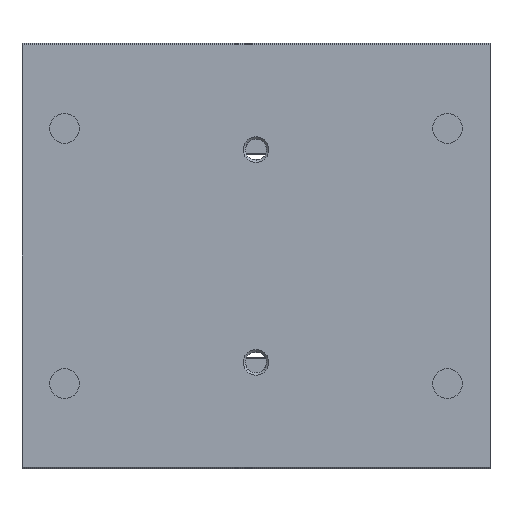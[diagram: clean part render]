
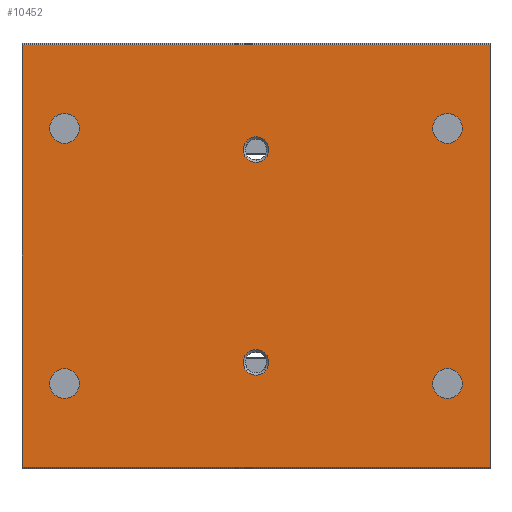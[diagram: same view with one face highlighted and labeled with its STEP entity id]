
A CAD part, front view. The second image highlights one B-rep face of the part: STEP entity #10452.
In plain terms, the highlighted planar face has unit normal (0, -1, 0).
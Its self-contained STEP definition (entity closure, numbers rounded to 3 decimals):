
#342=CIRCLE('',#11066,3.);
#343=CIRCLE('',#11067,3.);
#344=CIRCLE('',#11068,3.5);
#345=CIRCLE('',#11069,3.5);
#346=CIRCLE('',#11070,3.5);
#347=CIRCLE('',#11071,3.5);
#1052=ORIENTED_EDGE('',*,*,#4273,.F.);
#1053=ORIENTED_EDGE('',*,*,#4274,.F.);
#1054=ORIENTED_EDGE('',*,*,#4275,.T.);
#1055=ORIENTED_EDGE('',*,*,#4276,.F.);
#1056=ORIENTED_EDGE('',*,*,#4277,.F.);
#1057=ORIENTED_EDGE('',*,*,#4278,.F.);
#1058=ORIENTED_EDGE('',*,*,#4227,.T.);
#1059=ORIENTED_EDGE('',*,*,#4279,.F.);
#1060=ORIENTED_EDGE('',*,*,#4280,.F.);
#1061=ORIENTED_EDGE('',*,*,#4271,.T.);
#4227=EDGE_CURVE('',#5844,#5843,#6919,.T.);
#4271=EDGE_CURVE('',#5878,#5844,#6963,.T.);
#4273=EDGE_CURVE('',#5879,#5879,#342,.T.);
#4274=EDGE_CURVE('',#5880,#5880,#343,.T.);
#4275=EDGE_CURVE('',#5881,#5881,#344,.T.);
#4276=EDGE_CURVE('',#5882,#5882,#345,.T.);
#4277=EDGE_CURVE('',#5883,#5883,#346,.T.);
#4278=EDGE_CURVE('',#5884,#5884,#347,.T.);
#4279=EDGE_CURVE('',#5885,#5843,#6965,.T.);
#4280=EDGE_CURVE('',#5878,#5885,#6966,.T.);
#5843=VERTEX_POINT('',#15750);
#5844=VERTEX_POINT('',#15752);
#5878=VERTEX_POINT('',#15837);
#5879=VERTEX_POINT('',#15841);
#5880=VERTEX_POINT('',#15843);
#5881=VERTEX_POINT('',#15845);
#5882=VERTEX_POINT('',#15847);
#5883=VERTEX_POINT('',#15849);
#5884=VERTEX_POINT('',#15851);
#5885=VERTEX_POINT('',#15853);
#6919=LINE('',#15751,#7911);
#6963=LINE('',#15836,#7955);
#6965=LINE('',#15852,#7957);
#6966=LINE('',#15854,#7958);
#7911=VECTOR('',#12306,1000.);
#7955=VECTOR('',#12364,1000.);
#7957=VECTOR('',#12380,1000.);
#7958=VECTOR('',#12381,1000.);
#8885=EDGE_LOOP('',(#1052));
#8886=EDGE_LOOP('',(#1053));
#8887=EDGE_LOOP('',(#1054));
#8888=EDGE_LOOP('',(#1055));
#8889=EDGE_LOOP('',(#1056));
#8890=EDGE_LOOP('',(#1057));
#8891=EDGE_LOOP('',(#1058,#1059,#1060,#1061));
#9531=FACE_BOUND('',#8885,.T.);
#9532=FACE_BOUND('',#8886,.T.);
#9533=FACE_BOUND('',#8887,.T.);
#9534=FACE_BOUND('',#8888,.T.);
#9535=FACE_BOUND('',#8889,.T.);
#9536=FACE_BOUND('',#8890,.T.);
#9537=FACE_BOUND('',#8891,.T.);
#10177=PLANE('',#11065);
#10452=ADVANCED_FACE('',(#9531,#9532,#9533,#9534,#9535,#9536,#9537),#10177,
 .F.);
#11065=AXIS2_PLACEMENT_3D('',#15839,#12366,#12367);
#11066=AXIS2_PLACEMENT_3D('',#15840,#12368,#12369);
#11067=AXIS2_PLACEMENT_3D('',#15842,#12370,#12371);
#11068=AXIS2_PLACEMENT_3D('',#15844,#12372,#12373);
#11069=AXIS2_PLACEMENT_3D('',#15846,#12374,#12375);
#11070=AXIS2_PLACEMENT_3D('',#15848,#12376,#12377);
#11071=AXIS2_PLACEMENT_3D('',#15850,#12378,#12379);
#12306=DIRECTION('',(0.,0.,-1.));
#12364=DIRECTION('',(-1.,0.,0.));
#12366=DIRECTION('',(0.,1.,0.));
#12367=DIRECTION('',(0.,0.,1.));
#12368=DIRECTION('',(0.,-1.,0.));
#12369=DIRECTION('',(0.,0.,-1.));
#12370=DIRECTION('',(0.,-1.,0.));
#12371=DIRECTION('',(0.,0.,-1.));
#12372=DIRECTION('',(0.,1.,0.));
#12373=DIRECTION('',(0.,0.,1.));
#12374=DIRECTION('',(0.,-1.,0.));
#12375=DIRECTION('',(0.,0.,-1.));
#12376=DIRECTION('',(0.,-1.,0.));
#12377=DIRECTION('',(0.,0.,-1.));
#12378=DIRECTION('',(0.,-1.,0.));
#12379=DIRECTION('',(0.,0.,-1.));
#12380=DIRECTION('',(-1.,0.,0.));
#12381=DIRECTION('',(0.,0.,-1.));
#15750=CARTESIAN_POINT('',(0.,0.,-49.7));
#15751=CARTESIAN_POINT('',(0.,0.,49.7));
#15752=CARTESIAN_POINT('',(0.,0.,49.7));
#15836=CARTESIAN_POINT('',(110.,0.,49.7));
#15837=CARTESIAN_POINT('',(110.,0.,49.7));
#15839=CARTESIAN_POINT('',(110.,0.,49.7));
#15840=CARTESIAN_POINT('',(55.,0.,-25.));
#15841=CARTESIAN_POINT('',(55.,0.,-28.));
#15842=CARTESIAN_POINT('',(55.,0.,25.));
#15843=CARTESIAN_POINT('',(55.,0.,22.));
#15844=CARTESIAN_POINT('',(100.,0.,30.));
#15845=CARTESIAN_POINT('',(100.,0.,33.5));
#15846=CARTESIAN_POINT('',(100.,0.,-30.));
#15847=CARTESIAN_POINT('',(100.,0.,-33.5));
#15848=CARTESIAN_POINT('',(10.,0.,-30.));
#15849=CARTESIAN_POINT('',(10.,0.,-33.5));
#15850=CARTESIAN_POINT('',(10.,0.,30.));
#15851=CARTESIAN_POINT('',(10.,0.,26.5));
#15852=CARTESIAN_POINT('',(110.,0.,-49.7));
#15853=CARTESIAN_POINT('',(110.,0.,-49.7));
#15854=CARTESIAN_POINT('',(110.,0.,49.7));
